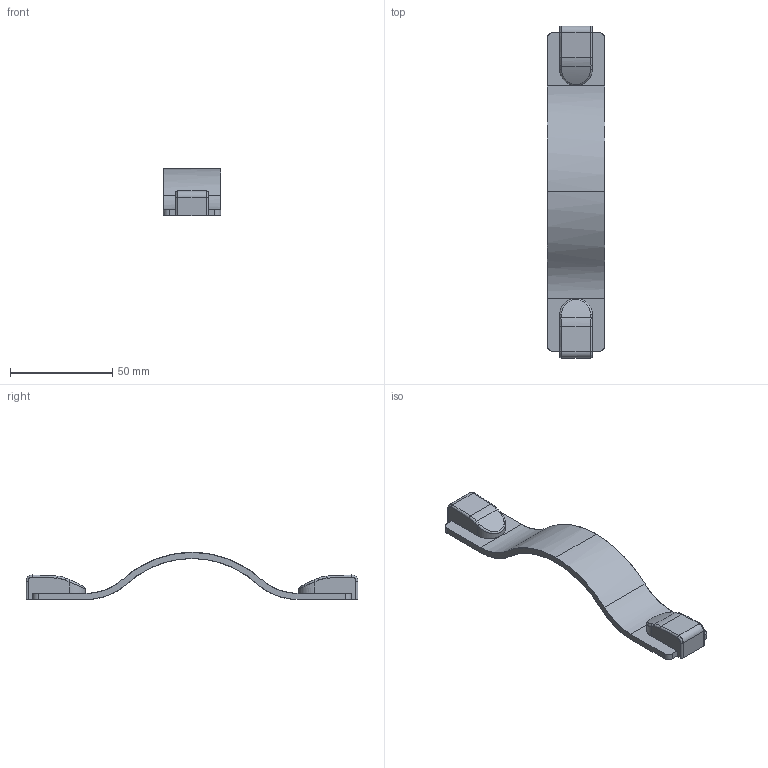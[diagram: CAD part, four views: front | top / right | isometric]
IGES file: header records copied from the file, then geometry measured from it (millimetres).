
Start section: C
Global section: file name: 8258-162.igs; native system: By Siemens PLM Incorporated; preprocessor: XPlus GENERIC/IGES 16.0.42; author: Author; organization: Title; date: 20231113.100125; units: millimetre
Bounding box: 28 x 161.95 x 22.99 mm (x, y, z)
Surface area: 15024.4 mm2 (no closed solid volume)
Topology: 0 solids, 0 shells, 98 faces, 516 edges, 516 vertices
Faces by surface type: bspline 98
